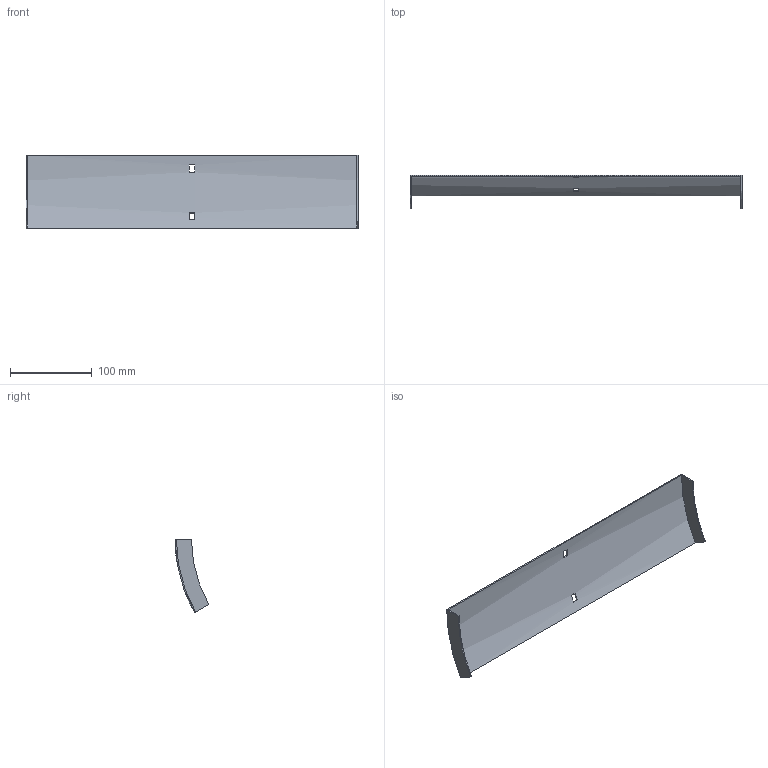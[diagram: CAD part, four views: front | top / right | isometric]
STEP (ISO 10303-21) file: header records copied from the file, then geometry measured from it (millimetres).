
FILE_DESCRIPTION (( 'STEP AP214' ), '1' );
FILE_NAME ('35N1C400.step', '2025-02-21T09:13:08', ( '' ), ( '' ), 'SwSTEP 2.0', 'SolidWorks 2023', '' );
FILE_SCHEMA (( 'AUTOMOTIVE_DESIGN' ));
Length unit declared in the file: millimetre
Products named in the file (1): 35N1C400
Bounding box: 407 x 41.5 x 90.25 mm (x, y, z)
Volume: 62215 mm3; surface area: 84632 mm2
Topology: 1 solids, 1 shells, 18 faces, 48 edges, 32 vertices
Faces by surface type: plane 14, cylinder 4
Entity records: 599 total; most frequent: DIRECTION 102, CARTESIAN_POINT 99, ORIENTED_EDGE 96, EDGE_CURVE 48, AXIS2_PLACEMENT_3D 35, VECTOR 32, LINE 32, VERTEX_POINT 32
